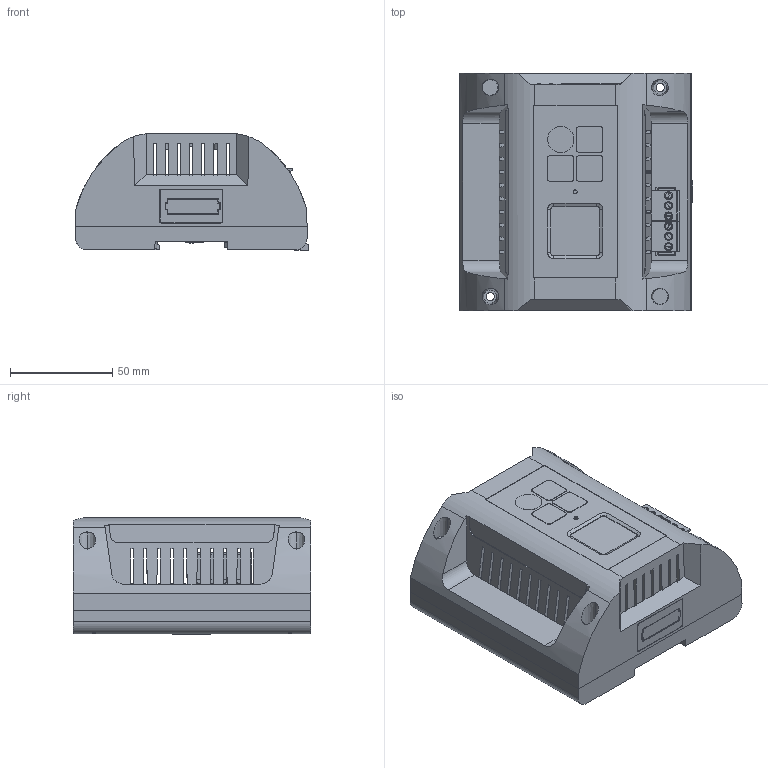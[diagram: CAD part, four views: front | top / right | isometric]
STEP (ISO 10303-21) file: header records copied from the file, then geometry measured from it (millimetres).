
FILE_DESCRIPTION(/* description */ ('Unknown'),/* implementation_level */ '2;1');
FILE_NAME(/* name */ 'MONTAGEM K21PRO+',/* time_stamp */ '2025-02-24T11:21:55-03:00',/* author */ ('Unknown'),/* organization */ ('Unknown'),/* preprocessor_version */ 'ST-DEVELOPER v20',/* originating_system */ 'Solid Edge',/* authorisation */ 'Unknown');
FILE_SCHEMA (('AUTOMOTIVE_DESIGN {1 0 10303 214 3 1 1}'));
Products named in the file (10): montagem final; Base-K21T; Proposta_02F__14_03_2023_K21__KVA; display; tactvermelha; portafusivelperfil; bornefemea6vias; borne 3vias - Copia; TRAVA FIXADORA; 6vias
Assembly tree (10 placements, depth 3):
  montagem final
    Base-K21T
    Proposta_02F__14_03_2023_K21__KVA
    display
    tactvermelha
    portafusivelperfil
    bornefemea6vias
      borne 3vias - Copia  x2
    TRAVA FIXADORA
    6vias
Bounding box: 113.86 x 116.06 x 57.07 mm (x, y, z)
Volume: 109515.1 mm3; surface area: 123596.4 mm2
Topology: 10 solids, 10 shells, 1926 faces, 5076 edges, 3256 vertices
Faces by surface type: plane 1514, cylinder 236, cone 98, bspline 54, sphere 24
Full cylindrical faces by diameter (mm): 1 x6, 1.5 x2, 2.5 x6, 4 x6
Entity records: 58351 total; most frequent: CARTESIAN_POINT 13378, ORIENTED_EDGE 9360, DIRECTION 8510, EDGE_CURVE 4680, LINE 3612, VECTOR 3612, VERTEX_POINT 2999, AXIS2_PLACEMENT_3D 2449
